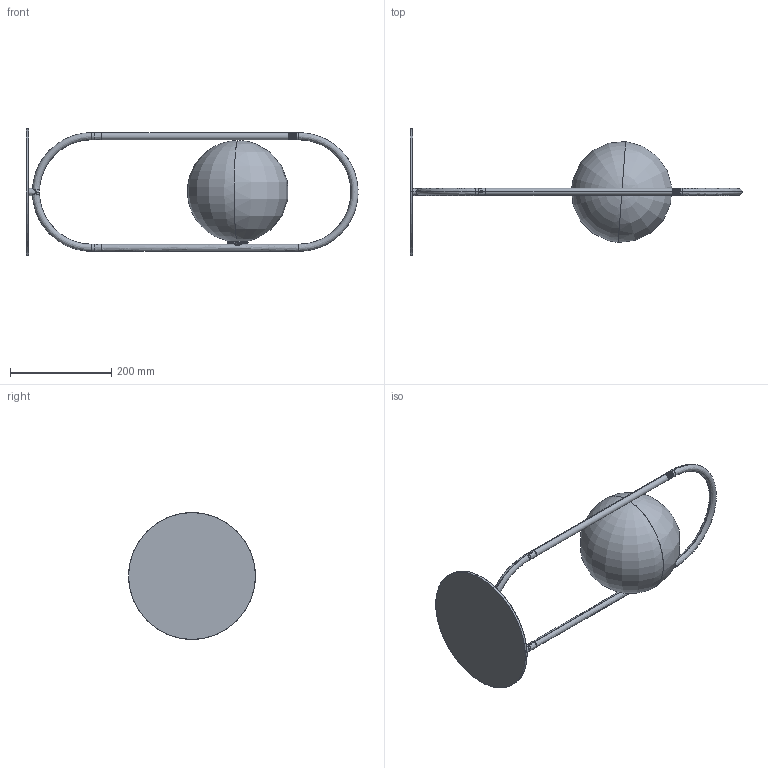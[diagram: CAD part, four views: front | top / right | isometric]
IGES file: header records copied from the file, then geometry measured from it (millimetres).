
Start section: SolidWorks IGES file using analytic representation for surfaces
Global section: file name: C:\Users\Agus\Desktop\AROMAS\Libreria modelos\1258\S1258\3D\S1258.IGS; native system: SolidWorks 2016; preprocessor: SolidWorks 2016; author: Agus; date: 180205.181128; units: millimetre
Bounding box: 654.88 x 250 x 250 mm (x, y, z)
Surface area: 480878.7 mm2 (no closed solid volume)
Topology: 0 solids, 0 shells, 200 faces, 5159 edges, 5158 vertices
Faces by surface type: revolution 143, bspline 57
